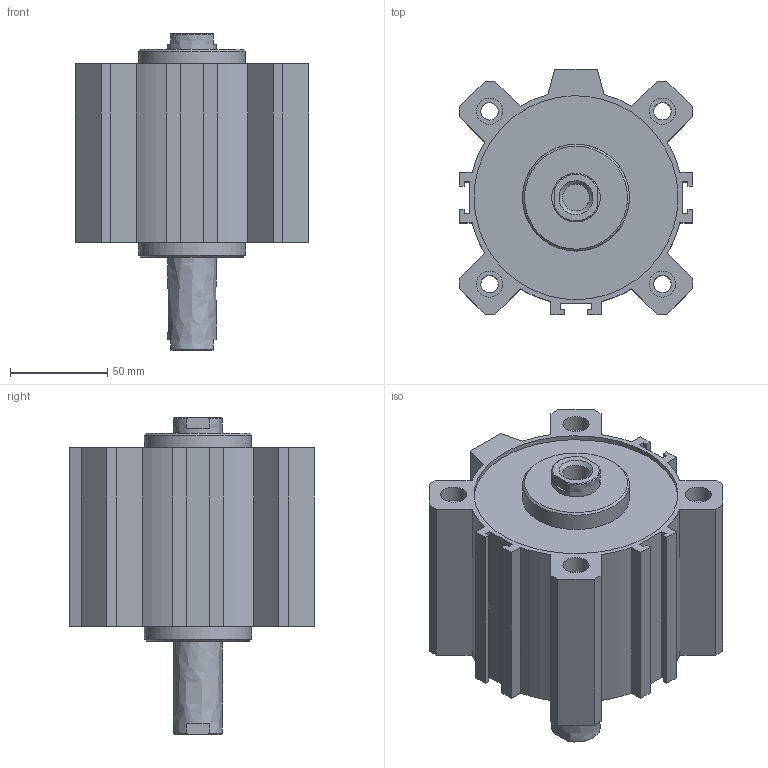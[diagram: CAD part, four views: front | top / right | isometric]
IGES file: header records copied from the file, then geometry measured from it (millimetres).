
Global section: file name: 1514_100_0040; native system: Autodesk Inventor 2014; preprocessor: unknown; author: A. Manieri; date: 20160824.163221; units: millimetre
Bounding box: 120 x 126 x 163 mm (x, y, z)
Volume: 811238.4 mm3; surface area: 167701.8 mm2
Topology: 2 solids, 2 shells, 132 faces, 346 edges, 238 vertices
Faces by surface type: bspline 132
